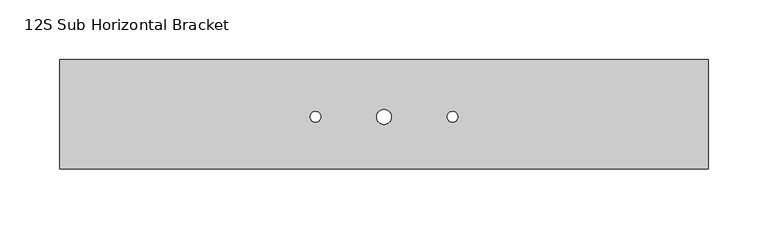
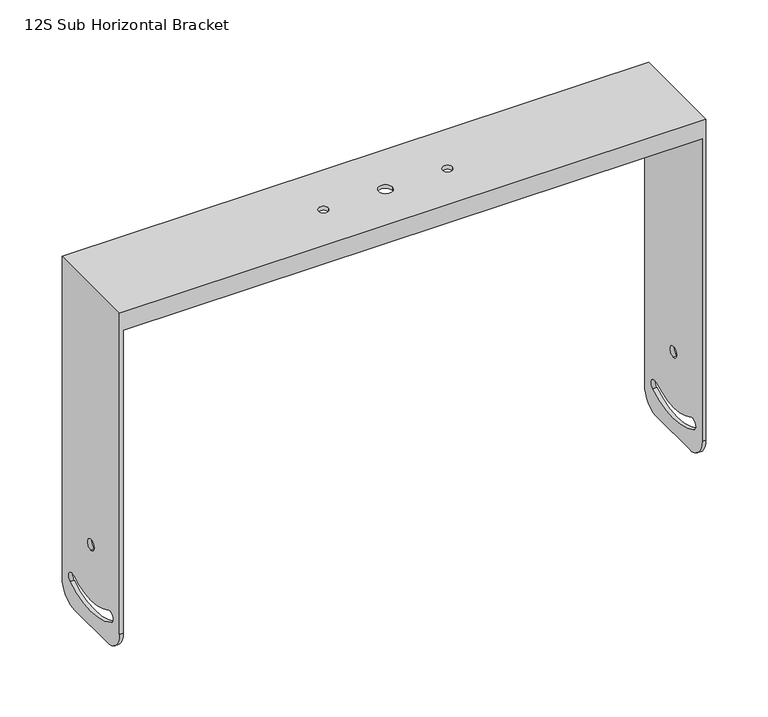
"""IFC4 building model written with IfcOpenShell, lengths in millimetres: proxy geometry, d&b xS-Series 12S Sub Horizontal Bracket : 12S Sub Horizontal Bracket."""

from ifc_helpers import new_model, si_unit, frame, origin, place, context, project, spatial, polyline, circle_curve, source, transform, mapped, element, save
from ifc_brep_helpers import plane_surface, cylinder_surface, revolved_surface, advanced_brep


def proxy_12s_sub_horizontal_bracket_de33758e(model_context):
    return source(origin(), model_context, "Body", "AdvancedBrep", [
        advanced_brep(
        [(-268.5, -20.9086165, -65.148007), (-268.5, -0.9086165, -45.148007), (-268.5, -0.9086165, 251.851993), (-268.5, -3.9086165, 251.851993), (-268.5, -3.9086165, 266.351993), (-268.5, -89.9086165, 266.351993), (-268.5, -89.9086165, 251.851993), (-268.5, -92.9086165, 251.851993), (-268.5, -92.9086165, -45.148007), (-268.5, -72.9086165, -65.148007), (-268.5, -46.9086165, 9.651993), (-268.5, -46.9086165, 20.051993), (-268.5, -74.7202352, -32.2981987), (-268.5, -19.0969978, -32.2981987), (-268.5, -13.7781955, -41.2352196), (-268.5, -80.0390375, -41.2352196), (-272.0, -20.9086165, -65.148007), (-272.0, -72.9086165, -65.148007), (-272.0, -92.9086165, -45.148007), (-272.0, -92.9086165, 269.851993), (-272.0, -0.9086165, 269.851993), (-272.0, -0.9086165, -45.148007), (-272.0, -46.9086165, 9.651993), (-272.0, -46.9086165, 20.051993), (-272.0, -74.7202352, -32.2981987), (-272.0, -80.0390375, -41.2352196), (-272.0, -13.7781955, -41.2352196), (-272.0, -19.0969978, -32.2981987), (272.0, -0.9086165, 269.851993), (272.0, -0.9086165, -45.148007), (268.5, -0.9086165, -45.148007), (268.5, -0.9086165, 251.851993), (268.5, -92.9086165, 251.851993), (268.5, -92.9086165, -45.148007), (272.0, -92.9086165, -45.148007), (272.0, -92.9086165, 269.851993), (-6.25, -49.1377421, 269.851993), (6.25, -49.1377421, 269.851993), (-62.0, -49.1377421, 269.851993), (-53.0, -49.1377421, 269.851993), (53.0, -49.1377421, 269.851993), (62.0, -49.1377421, 269.851993), (268.5, -3.9086165, 266.351993), (268.5, -89.9086165, 266.351993), (-6.25, -49.1377421, 266.351993), (6.25, -49.1377421, 266.351993), (-62.0, -49.1377421, 266.351993), (-53.0, -49.1377421, 266.351993), (53.0, -49.1377421, 266.351993), (62.0, -49.1377421, 266.351993), (272.0, -72.9086165, -65.148007), (272.0, -20.9086165, -65.148007), (272.0, -46.9086165, 9.651993), (272.0, -46.9086165, 20.051993), (272.0, -74.7202352, -32.2981987), (272.0, -19.0969978, -32.2981987), (272.0, -13.7781955, -41.2352196), (272.0, -80.0390375, -41.2352196), (268.5, -3.9086165, 251.851993), (268.5, -89.9086165, 251.851993), (268.5, -20.9086165, -65.148007), (268.5, -72.9086165, -65.148007), (268.5, -46.9086165, 9.651993), (268.5, -46.9086165, 20.051993), (268.5, -74.7202352, -32.2981987), (268.5, -80.0390375, -41.2352196), (268.5, -13.7781955, -41.2352196), (268.5, -19.0969978, -32.2981987)],
        [
            (0, 1, circle_curve(frame((-268.5, -20.9086165, -45.148007), z_axis=(1.0, 0.0, 0.0), x_axis=(0.0, 0.0, 1.0)), 20.0)),
            (1, 2),
            (2, 3),
            (3, 4),
            (4, 5),
            (5, 6),
            (6, 7),
            (7, 8),
            (8, 9, circle_curve(frame((-268.5, -72.9086165, -45.148007), z_axis=(1.0, 0.0, 0.0), x_axis=(0.0, 0.0, 1.0)), 20.0)),
            (9, 0),
            (10, 11, circle_curve(frame((-268.5, -46.9086165, 14.851993), z_axis=(-1.0, 0.0, 0.0), x_axis=(0.0, 0.0, 1.0)), 5.2)),
            (11, 10, circle_curve(frame((-268.5, -46.9086165, 14.851993), z_axis=(-1.0, 0.0, 0.0), x_axis=(0.0, 0.0, 1.0)), 5.2)),
            (12, 13, circle_curve(frame((-268.5, -46.9086165, 14.4328135), z_axis=(1.0, 0.0, 0.0), x_axis=(0.0, 0.0, 1.0)), 54.3808204)),
            (13, 14, circle_curve(frame((-268.5, -16.4375967, -36.7667091), z_axis=(-1.0, 0.0, 0.0), x_axis=(0.0, 0.0, 1.0)), 5.2)),
            (14, 15, circle_curve(frame((-268.5, -46.9086165, 14.4328135), z_axis=(-1.0, 0.0, 0.0), x_axis=(0.0, 0.0, 1.0)), 64.7808204)),
            (15, 12, circle_curve(frame((-268.5, -77.3796363, -36.7667091), z_axis=(-1.0, 0.0, 0.0), x_axis=(0.0, 0.0, 1.0)), 5.2)),
            (16, 17),
            (17, 18, circle_curve(frame((-272.0, -72.9086165, -45.148007), z_axis=(-1.0, 0.0, 0.0), x_axis=(0.0, 0.0, 1.0)), 20.0)),
            (18, 19),
            (19, 20),
            (20, 21),
            (21, 16, circle_curve(frame((-272.0, -20.9086165, -45.148007), z_axis=(-1.0, 0.0, 0.0), x_axis=(0.0, 0.0, 1.0)), 20.0)),
            (22, 23, circle_curve(frame((-272.0, -46.9086165, 14.851993), z_axis=(1.0, 0.0, 0.0), x_axis=(0.0, 0.0, 1.0)), 5.2)),
            (23, 22, circle_curve(frame((-272.0, -46.9086165, 14.851993), z_axis=(1.0, 0.0, 0.0), x_axis=(0.0, 0.0, 1.0)), 5.2)),
            (24, 25, circle_curve(frame((-272.0, -77.3796363, -36.7667091), z_axis=(1.0, 0.0, 0.0), x_axis=(0.0, 0.0, 1.0)), 5.2)),
            (25, 26, circle_curve(frame((-272.0, -46.9086165, 14.4328135), z_axis=(1.0, 0.0, 0.0), x_axis=(0.0, 0.0, 1.0)), 64.7808204)),
            (26, 27, circle_curve(frame((-272.0, -16.4375967, -36.7667091), z_axis=(1.0, 0.0, 0.0), x_axis=(0.0, 0.0, 1.0)), 5.2)),
            (27, 24, circle_curve(frame((-272.0, -46.9086165, 14.4328135), z_axis=(-1.0, 0.0, 0.0), x_axis=(0.0, 0.0, 1.0)), 54.3808204)),
            (0, 16),
            (21, 1),
            (20, 28),
            (28, 29),
            (29, 30),
            (30, 31),
            (31, 2),
            (18, 8),
            (7, 32),
            (32, 33),
            (33, 34),
            (34, 35),
            (35, 19),
            (17, 9),
            (10, 22),
            (23, 11),
            (12, 24),
            (27, 13),
            (26, 14),
            (25, 15),
            (35, 28),
            (36, 37, circle_curve(frame((0.0, -49.1377421, 269.851993), z_axis=(0.0, 0.0, -1.0), x_axis=(1.0, 0.0, 0.0)), 6.25)),
            (37, 36, circle_curve(frame((0.0, -49.1377421, 269.851993), z_axis=(0.0, 0.0, -1.0), x_axis=(1.0, 0.0, 0.0)), 6.25)),
            (38, 39, circle_curve(frame((-57.5, -49.1377421, 269.851993), z_axis=(0.0, 0.0, -1.0), x_axis=(1.0, 0.0, 0.0)), 4.5)),
            (39, 38, circle_curve(frame((-57.5, -49.1377421, 269.851993), z_axis=(0.0, 0.0, -1.0), x_axis=(1.0, 0.0, 0.0)), 4.5)),
            (40, 41, circle_curve(frame((57.5, -49.1377421, 269.851993), z_axis=(0.0, 0.0, -1.0), x_axis=(1.0, 0.0, 0.0)), 4.5)),
            (41, 40, circle_curve(frame((57.5, -49.1377421, 269.851993), z_axis=(0.0, 0.0, -1.0), x_axis=(1.0, 0.0, 0.0)), 4.5)),
            (4, 42),
            (42, 43),
            (43, 5),
            (44, 45, circle_curve(frame((0.0, -49.1377421, 266.351993), z_axis=(0.0, 0.0, 1.0), x_axis=(1.0, 0.0, 0.0)), 6.25)),
            (45, 44, circle_curve(frame((0.0, -49.1377421, 266.351993), z_axis=(0.0, 0.0, 1.0), x_axis=(1.0, 0.0, 0.0)), 6.25)),
            (46, 47, circle_curve(frame((-57.5, -49.1377421, 266.351993), z_axis=(0.0, 0.0, 1.0), x_axis=(1.0, 0.0, 0.0)), 4.5)),
            (47, 46, circle_curve(frame((-57.5, -49.1377421, 266.351993), z_axis=(0.0, 0.0, 1.0), x_axis=(1.0, 0.0, 0.0)), 4.5)),
            (48, 49, circle_curve(frame((57.5, -49.1377421, 266.351993), z_axis=(0.0, 0.0, 1.0), x_axis=(1.0, 0.0, 0.0)), 4.5)),
            (49, 48, circle_curve(frame((57.5, -49.1377421, 266.351993), z_axis=(0.0, 0.0, 1.0), x_axis=(1.0, 0.0, 0.0)), 4.5)),
            (34, 50, circle_curve(frame((272.0, -72.9086165, -45.148007), z_axis=(1.0, 0.0, 0.0), x_axis=(0.0, 0.0, 1.0)), 20.0)),
            (50, 51),
            (51, 29, circle_curve(frame((272.0, -20.9086165, -45.148007), z_axis=(1.0, 0.0, 0.0), x_axis=(0.0, 0.0, 1.0)), 20.0)),
            (52, 53, circle_curve(frame((272.0, -46.9086165, 14.851993), z_axis=(-1.0, 0.0, 0.0), x_axis=(0.0, 0.0, 1.0)), 5.2)),
            (53, 52, circle_curve(frame((272.0, -46.9086165, 14.851993), z_axis=(-1.0, 0.0, 0.0), x_axis=(0.0, 0.0, 1.0)), 5.2)),
            (54, 55, circle_curve(frame((272.0, -46.9086165, 14.4328135), z_axis=(1.0, 0.0, 0.0), x_axis=(0.0, 0.0, 1.0)), 54.3808204)),
            (55, 56, circle_curve(frame((272.0, -16.4375967, -36.7667091), z_axis=(-1.0, 0.0, 0.0), x_axis=(0.0, 0.0, 1.0)), 5.2)),
            (56, 57, circle_curve(frame((272.0, -46.9086165, 14.4328135), z_axis=(-1.0, 0.0, 0.0), x_axis=(0.0, 0.0, 1.0)), 64.7808204)),
            (57, 54, circle_curve(frame((272.0, -77.3796363, -36.7667091), z_axis=(-1.0, 0.0, 0.0), x_axis=(0.0, 0.0, 1.0)), 5.2)),
            (36, 44),
            (45, 37),
            (38, 46),
            (47, 39),
            (40, 48),
            (49, 41),
            (3, 58),
            (58, 42),
            (31, 58),
            (6, 59),
            (59, 32),
            (43, 59),
            (60, 61),
            (61, 33, circle_curve(frame((268.5, -72.9086165, -45.148007), z_axis=(-1.0, 0.0, 0.0), x_axis=(0.0, 0.0, 1.0)), 20.0)),
            (30, 60, circle_curve(frame((268.5, -20.9086165, -45.148007), z_axis=(-1.0, 0.0, 0.0), x_axis=(0.0, 0.0, 1.0)), 20.0)),
            (62, 63, circle_curve(frame((268.5, -46.9086165, 14.851993), z_axis=(1.0, 0.0, 0.0), x_axis=(0.0, 0.0, 1.0)), 5.2)),
            (63, 62, circle_curve(frame((268.5, -46.9086165, 14.851993), z_axis=(1.0, 0.0, 0.0), x_axis=(0.0, 0.0, 1.0)), 5.2)),
            (64, 65, circle_curve(frame((268.5, -77.3796363, -36.7667091), z_axis=(1.0, 0.0, 0.0), x_axis=(0.0, 0.0, 1.0)), 5.2)),
            (65, 66, circle_curve(frame((268.5, -46.9086165, 14.4328135), z_axis=(1.0, 0.0, 0.0), x_axis=(0.0, 0.0, 1.0)), 64.7808204)),
            (66, 67, circle_curve(frame((268.5, -16.4375967, -36.7667091), z_axis=(1.0, 0.0, 0.0), x_axis=(0.0, 0.0, 1.0)), 5.2)),
            (67, 64, circle_curve(frame((268.5, -46.9086165, 14.4328135), z_axis=(-1.0, 0.0, 0.0), x_axis=(0.0, 0.0, 1.0)), 54.3808204)),
            (51, 60),
            (61, 50),
            (52, 62),
            (63, 53),
            (54, 64),
            (67, 55),
            (66, 56),
            (65, 57),
        ],
        [
            plane_surface(frame((-268.5, -20.9086165, -25.148007), z_axis=(1.0, 0.0, 0.0), x_axis=(0.0, -1.0, 0.0))),
            plane_surface(frame((-272.0, -20.9086165, -25.148007), z_axis=(-1.0, 0.0, 0.0), x_axis=(0.0, 1.0, 0.0))),
            cylinder_surface(frame((-272.0, -20.9086165, -45.148007), z_axis=(1.0, 0.0, 0.0), x_axis=(0.0, 0.0, 1.0)), 20.0),
            plane_surface(frame((-268.5, -0.9086165, -45.148007), z_axis=(0.0, 1.0, 0.0), x_axis=(-1.0, 0.0, 0.0))),
            plane_surface(frame((-268.5, -92.9086165, 266.351993), z_axis=(0.0, -1.0, 0.0), x_axis=(-1.0, 0.0, 0.0))),
            cylinder_surface(frame((-272.0, -72.9086165, -45.148007), z_axis=(1.0, 0.0, 0.0), x_axis=(0.0, 0.0, 1.0)), 20.0),
            plane_surface(frame((-268.5, -72.9086165, -65.148007), z_axis=(0.0, 0.0, -1.0), x_axis=(-1.0, 0.0, 0.0))),
            revolved_surface(polyline([(-272.0, -46.9086165, 20.051993), (-268.5, -46.9086165, 20.051993)]), (0.0, -46.9086165, 14.851993), (-1.0, 0.0, 0.0)),
            cylinder_surface(frame((0.0, -46.9086165, 14.4328135), z_axis=(1.0, 0.0, 0.0), x_axis=(0.0, 0.0, 1.0)), 54.3808204),
            revolved_surface(polyline([(-272.0, -16.4375967, -31.5667091), (-268.5, -16.4375967, -31.5667091)]), (0.0, -16.4375967, -36.7667091), (-1.0, 0.0, 0.0)),
            revolved_surface(polyline([(-272.0, -46.9086165, 79.21363389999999), (-268.5, -46.9086165, 79.21363389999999)]), (0.0, -46.9086165, 14.4328135), (-1.0, 0.0, 0.0)),
            revolved_surface(polyline([(-272.0, -77.3796363, -31.5667091), (-268.5, -77.3796363, -31.5667091)]), (0.0, -77.3796363, -36.7667091), (-1.0, 0.0, 0.0)),
            plane_surface(frame((-272.0, -0.9086165, 269.851993), z_axis=(0.0, 0.0, 1.0), x_axis=(-1.0, 0.0, 0.0))),
            plane_surface(frame((-272.0, -0.9086165, 266.351993), z_axis=(0.0, 0.0, -1.0), x_axis=(1.0, 0.0, 0.0))),
            plane_surface(frame((272.0, -92.9086165, 269.851993), z_axis=(1.0, 0.0, 0.0), x_axis=(0.0, 0.0, -1.0))),
            revolved_surface(polyline([(6.25, -49.1377421, 266.351993), (6.25, -49.1377421, 269.851993)]), (0.0, -49.1377421, 69.851993), (0.0, 0.0, -1.0)),
            revolved_surface(polyline([(-53.0, -49.1377421, 266.351993), (-53.0, -49.1377421, 269.851993)]), (-57.5, -49.1377421, 69.851993), (0.0, 0.0, -1.0)),
            revolved_surface(polyline([(62.0, -49.1377421, 266.351993), (62.0, -49.1377421, 269.851993)]), (57.5, -49.1377421, 69.851993), (0.0, 0.0, -1.0)),
            plane_surface(frame((268.5, -3.9086165, 266.351993), z_axis=(0.0, -1.0, 0.0), x_axis=(-1.0, 0.0, 0.0))),
            plane_surface(frame((268.5, -3.9086165, 251.851993), z_axis=(0.0, 0.0, -1.0), x_axis=(-1.0, 0.0, 0.0))),
            plane_surface(frame((268.5, -92.9086165, 251.851993), z_axis=(0.0, 0.0, -1.0), x_axis=(-1.0, 0.0, 0.0))),
            plane_surface(frame((268.5, -89.9086165, 251.851993), z_axis=(0.0, 1.0, 0.0), x_axis=(-1.0, 0.0, 0.0))),
            plane_surface(frame((268.5, -20.9086165, -25.148007), z_axis=(-1.0, 0.0, 0.0), x_axis=(0.0, 1.0, 0.0))),
            cylinder_surface(frame((268.5, -20.9086165, -45.148007), z_axis=(1.0, 0.0, 0.0), x_axis=(0.0, 0.0, 1.0)), 20.0),
            cylinder_surface(frame((268.5, -72.9086165, -45.148007), z_axis=(1.0, 0.0, 0.0), x_axis=(0.0, 0.0, 1.0)), 20.0),
            plane_surface(frame((272.0, -72.9086165, -65.148007), z_axis=(0.0, 0.0, -1.0), x_axis=(-1.0, 0.0, 0.0))),
            revolved_surface(polyline([(268.5, -46.9086165, 20.051993), (272.0, -46.9086165, 20.051993)]), (0.0, -46.9086165, 14.851993), (-1.0, 0.0, 0.0)),
            revolved_surface(polyline([(268.5, -16.4375967, -31.5667091), (272.0, -16.4375967, -31.5667091)]), (0.0, -16.4375967, -36.7667091), (-1.0, 0.0, 0.0)),
            revolved_surface(polyline([(268.5, -46.9086165, 79.21363389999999), (272.0, -46.9086165, 79.21363389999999)]), (0.0, -46.9086165, 14.4328135), (-1.0, 0.0, 0.0)),
            revolved_surface(polyline([(268.5, -77.3796363, -31.5667091), (272.0, -77.3796363, -31.5667091)]), (0.0, -77.3796363, -36.7667091), (-1.0, 0.0, 0.0)),
        ],
        [
            (0, [[1, 2, 3, 4, 5, 6, 7, 8, 9, 10], [11, 12], [13, 14, 15, 16]]),
            (1, [[17, 18, 19, 20, 21, 22], [23, 24], [25, 26, 27, 28]]),
            (2, [[-1, 29, -22, 30]]),
            (3, [[-30, -21, 31, 32, 33, 34, 35, -2]]),
            (4, [[36, -8, 37, 38, 39, 40, 41, -19]]),
            (5, [[-9, -36, -18, 42]]),
            (6, [[-10, -42, -17, -29]]),
            (7, [[-11, 43, -24, 44]]),
            (7, [[-12, -44, -23, -43]]),
            (8, [[-13, 45, -28, 46]]),
            (9, [[-14, -46, -27, 47]]),
            (10, [[-15, -47, -26, 48]]),
            (11, [[-16, -48, -25, -45]]),
            (12, [[-31, -20, -41, 49], [50, 51], [52, 53], [54, 55]]),
            (13, [[-5, 56, 57, 58], [59, 60], [61, 62], [63, 64]]),
            (14, [[-32, -49, -40, 65, 66, 67], [68, 69], [70, 71, 72, 73]]),
            (15, [[-50, 74, -60, 75]]),
            (15, [[-51, -75, -59, -74]]),
            (16, [[-52, 76, -62, 77]]),
            (16, [[-53, -77, -61, -76]]),
            (17, [[-54, 78, -64, 79]]),
            (17, [[-55, -79, -63, -78]]),
            (18, [[80, 81, -56, -4]]),
            (19, [[-80, -3, -35, 82]]),
            (20, [[-37, -7, 83, 84]]),
            (21, [[-83, -6, -58, 85]]),
            (22, [[86, 87, -38, -84, -85, -57, -81, -82, -34, 88], [89, 90], [91, 92, 93, 94]]),
            (23, [[-67, 95, -88, -33]]),
            (24, [[-65, -39, -87, 96]]),
            (25, [[-66, -96, -86, -95]]),
            (26, [[-68, 97, -90, 98]]),
            (26, [[-69, -98, -89, -97]]),
            (8, [[-70, 99, -94, 100]]),
            (27, [[-71, -100, -93, 101]]),
            (28, [[-72, -101, -92, 102]]),
            (29, [[-73, -102, -91, -99]]),
        ],
    ),
    ])


if __name__ == "__main__":
    model = new_model("IFC4")
    model_context = context("Model", 3, world=origin())
    ifc_project = project(units=[si_unit("LENGTHUNIT", "METRE", prefix="MILLI")], contexts=[model_context])
    site = spatial("IfcSite", under=ifc_project)
    building = spatial("IfcBuilding", under=site)
    placement = place(None, origin())
    proxy_12s_sub_horizontal_bracket_shape = proxy_12s_sub_horizontal_bracket_de33758e(model_context)
    element("IfcBuildingElementProxy", 1, Name="d&b xS-Series 12S Sub Horizontal Bracket : 12S Sub Horizontal Bracket", ObjectType="d&b xS-Series 12S Sub Horizontal Bracket : 12S Sub Horizontal Bracket", at=placement, inside=building, context=model_context, shape_type="MappedRepresentation", body=[
        mapped(proxy_12s_sub_horizontal_bracket_shape, transform((0.0, 0.0, 0.0), x_axis=(1.0, 0.0, 0.0), y_axis=(0.0, 1.0, 0.0), z_axis=(0.0, 0.0, 1.0))),
    ])
    save(model, "model.ifc")
